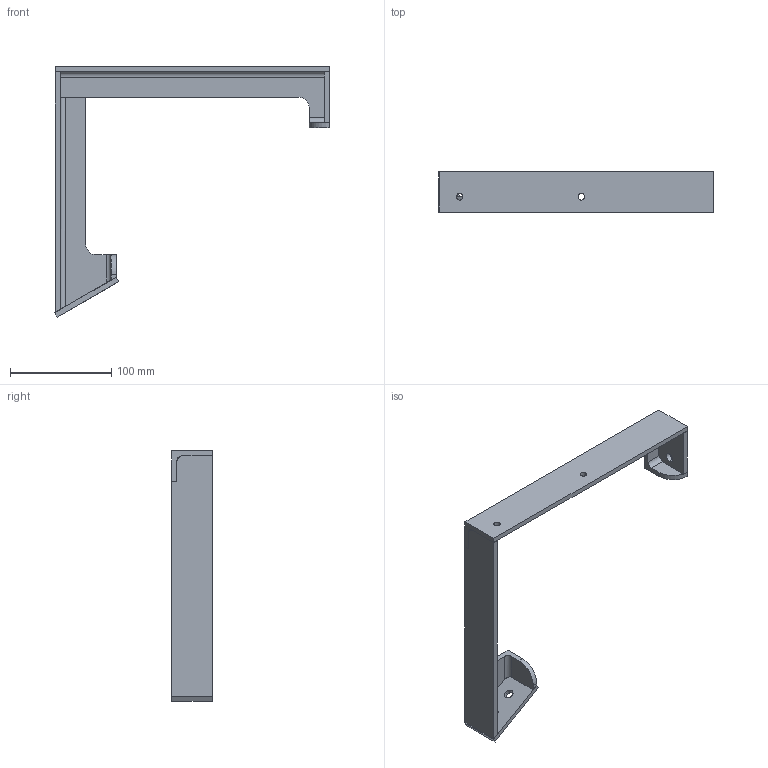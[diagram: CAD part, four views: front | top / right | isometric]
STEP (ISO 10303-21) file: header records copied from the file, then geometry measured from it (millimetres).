
FILE_DESCRIPTION (( 'STEP AP214' ), '1' );
FILE_NAME ('ÂØÀÅ.301343.023 Êðîíøòåéí ïðàâûé.STEP', '2024-04-17T12:50:06', ( '' ), ( '' ), 'SwSTEP 2.0', 'SolidWorks 2019', '' );
FILE_SCHEMA (( 'AUTOMOTIVE_DESIGN' ));
Length unit declared in the file: millimetre
Products named in the file (5): 仑琅.746222.006 署铐彘韄牏氅; ÂØÀÅ.741124.124 Ïëàñòèíà_74å40; 仑琅.746222.005 署铐彘韄牏氅; ÂØÀÅ.301343.023 Êðîíøòåéí ïðàâûé; 贅斃.741124.122 砑僔蠂縺
Assembly tree (4 placements, depth 2):
  ÂØÀÅ.301343.023 Êðîíøòåéí ïðàâûé
    仑琅.746222.005 署铐彘韄牏氅
    贅斃.741124.122 砑僔蠂縺
    仑琅.746222.006 署铐彘韄牏氅
    ÂØÀÅ.741124.124 Ïëàñòèíà_74å40
Bounding box: 270.62 x 40 x 246.59 mm (x, y, z)
Volume: 197857 mm3; surface area: 87081 mm2
Topology: 4 solids, 4 shells, 60 faces, 156 edges, 104 vertices
Faces by surface type: plane 40, cylinder 20
Entity records: 2060 total; most frequent: CARTESIAN_POINT 333, DIRECTION 326, ORIENTED_EDGE 312, EDGE_CURVE 156, LINE 116, VECTOR 116, AXIS2_PLACEMENT_3D 105, VERTEX_POINT 104
